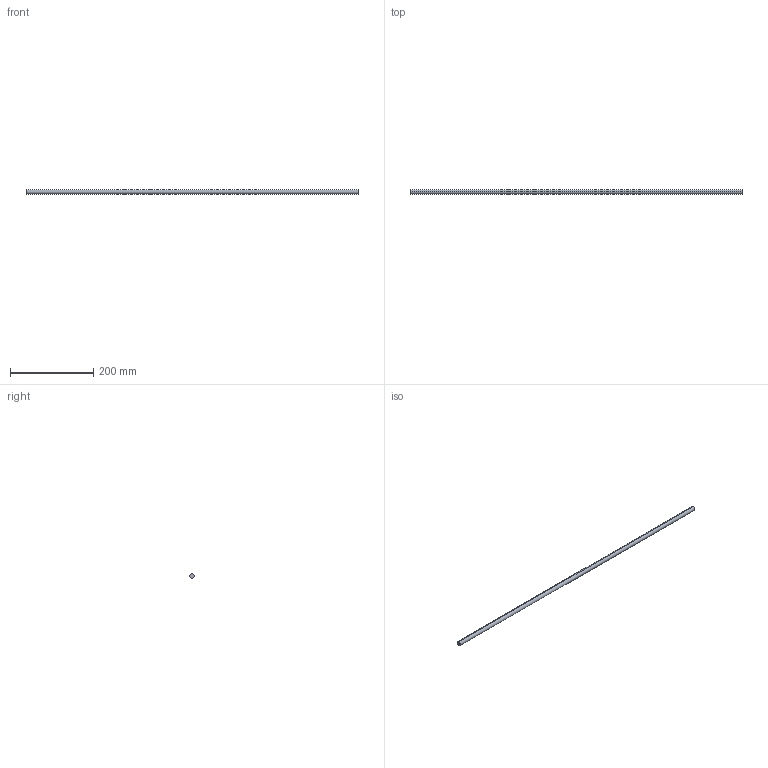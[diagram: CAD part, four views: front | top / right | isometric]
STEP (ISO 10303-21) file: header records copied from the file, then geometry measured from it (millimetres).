
FILE_DESCRIPTION (( 'STEP AP214' ), '1' );
FILE_NAME ('Querreling_2S-Rel_7102_KAB-900.step', '2010-09-22T15:05:58', ( 'grass' ), ( '' ), 'SwSTEP 2.0', 'SolidWorks 2010', '' );
FILE_SCHEMA (( 'AUTOMOTIVE_DESIGN' ));
Length unit declared in the file: millimetre
Products named in the file (1): Querreling_2S-Rel_7102_KAB-900
Bounding box: 799 x 11 x 11 mm (x, y, z)
Volume: 75931.5 mm3; surface area: 27801.5 mm2
Topology: 1 solids, 1 shells, 4 faces, 6 edges, 4 vertices
Faces by surface type: cylinder 2, plane 2
Entity records: 128 total; most frequent: DIRECTION 20, CARTESIAN_POINT 15, ORIENTED_EDGE 12, AXIS2_PLACEMENT_3D 9, EDGE_CURVE 6, VERTEX_POINT 4, ADVANCED_FACE 4, EDGE_LOOP 4
